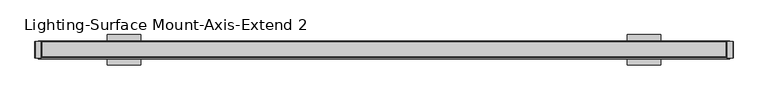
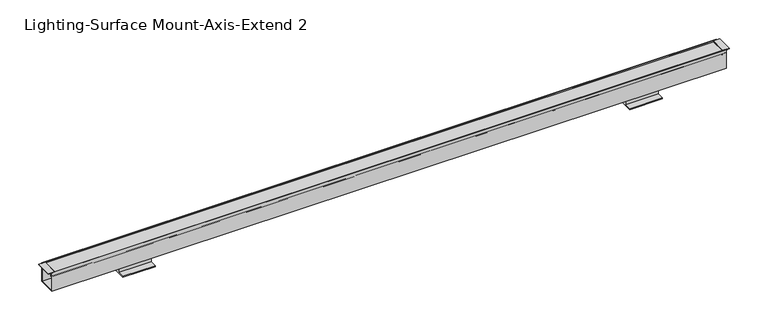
"""IFC4 building model written with IfcOpenShell, lengths in millimetres: light fixture geometry, Lighting-Surface Mount-Axis-Extend 2 : EX2S-900-80-35-SO-4."""

from ifc_helpers import new_model, si_unit, point, frame, frame_2d, origin, place, context, project, spatial, polyline, circle_curve, trimmed, segment, composite_curve, outline, extrude, source, transform, mapped, element, save


def lighting_surface_mount_axis_extend_2_fe795b97(model_context):
    return source(origin(), model_context, "Body", "SweptSolid", [
        extrude(outline(polyline([(3.5941, 19.05), (60.4139, 19.05), (60.4139, 3.9878), (85.8139335, 3.9878), (85.8139335, 0.0), (-21.8059335, 0.0), (-21.8059335, 3.9878), (3.5941, 3.9878), (3.5941, 19.05)])), frame((-982.90634, 0.0, 0.0), z_axis=(1.0, 0.0, 0.0), x_axis=(0.0, 1.0, 0.0)), (0.0, 0.0, 1.0), 118.69928),
        extrude(outline(polyline([(3.5941, 19.05), (60.4139, 19.05), (60.4139, 3.9878), (85.8139335, 3.9878), (85.8139335, 0.0), (-21.8059335, 0.0), (-21.8059335, 3.9878), (3.5941, 3.9878), (3.5941, 19.05)])), frame((864.20706, 0.0, 0.0), z_axis=(1.0, 0.0, 0.0), x_axis=(0.0, 1.0, 0.0)), (0.0, 0.0, 1.0), 118.69928),
        extrude(outline(polyline([(89.3857861, 1216.2536), (87.91575, 1216.2536), (87.91575, 1217.04735), (88.7095, 1217.04735), (88.7095, 1223.518), (85.9032981, 1223.518), (85.9032981, 1233.1954), (88.7095, 1233.1954), (88.7095, 1239.66605), (87.91575, 1239.66605), (87.91575, 1240.4598), (89.3857861, 1240.4598), (90.4875, 1239.5352563), (90.4875, 1217.1781437), (89.3857861, 1216.2536)])), frame((0.0, 2.032, 0.0), z_axis=(0.0, 1.0, 0.0), x_axis=(0.0, 0.0, 1.0)), (0.0, 0.0, 1.0), 59.944),
        extrude(outline(polyline([(89.3857861, -1240.4598), (87.91575, -1240.4598), (87.91575, -1239.66605), (88.7095, -1239.66605), (88.7095, -1233.1954), (85.9032981, -1233.1954), (85.9032981, -1223.518), (88.7095, -1223.518), (88.7095, -1217.04735), (87.91575, -1217.04735), (87.91575, -1216.2536), (89.3857861, -1216.2536), (90.4875, -1217.1781437), (90.4875, -1239.5352563), (89.3857861, -1240.4598)])), frame((0.0, 2.032, 0.0), z_axis=(0.0, 1.0, 0.0), x_axis=(0.0, 0.0, 1.0)), (0.0, 0.0, 1.0), 59.944),
        extrude(outline(composite_curve([segment(polyline([(56.1767262, 85.5979991), (7.8312738, 85.5979991), (7.4925819, 79.1353737)]), True, "CONTINUOUS"), segment(trimmed(circle_curve(frame_2d((4.7498, 76.1365)), 4.064), [point((7.4925819, 79.1353737))], [point((6.6221186, 72.5294903))], False, "CARTESIAN"), True, "CONTINUOUS"), segment(trimmed(circle_curve(frame_2d((9.854656, 73.3183457)), 3.3274001), [point((6.6221186, 72.5294903))], [point((7.4374044, 71.0317575))], True, "CARTESIAN"), True, "CONTINUOUS"), segment(trimmed(circle_curve(frame_2d((14.8736823, 78.0660708)), 10.2362001), [point((7.4374044, 71.0317575))], [point((8.7920934, 69.8323555))], True, "CARTESIAN"), True, "CONTINUOUS"), segment(trimmed(circle_curve(frame_2d((8.3016427, 69.1683462)), 0.8255), [point((8.7920934, 69.8323555))], [point((7.811192, 68.5043369))], False, "CARTESIAN"), True, "CONTINUOUS"), segment(trimmed(circle_curve(frame_2d((14.8736831, 78.0660717)), 11.8872013), [point((7.811192, 68.5043369))], [point((6.2380048, 69.8971908))], False, "CARTESIAN"), True, "CONTINUOUS"), segment(trimmed(circle_curve(frame_2d((9.854656, 73.3183457)), 4.9784001), [point((6.2380048, 69.8971908))], [point((4.8931193, 73.72776))], False, "CARTESIAN"), True, "CONTINUOUS"), segment(trimmed(circle_curve(frame_2d((4.7498, 76.1365)), 2.413), [point((4.8931193, 73.72776))], [point((6.5286059, 77.7669658))], True, "CARTESIAN"), True, "CONTINUOUS"), segment(trimmed(circle_curve(frame_2d((8.4010331, 79.4832456)), 2.54), [point((6.5286059, 77.7669658))], [point((5.8645141, 79.6161789))], False, "CARTESIAN"), True, "CONTINUOUS"), segment(polyline([(5.8645141, 79.6161789), (6.178008, 85.5979991), (3.175, 85.5979991), (3.175, 87.503), (60.833, 87.503), (60.833, 85.5979991), (57.829992, 85.5979991), (58.1434859, 79.6161789)]), True, "CONTINUOUS"), segment(trimmed(circle_curve(frame_2d((55.6069669, 79.4832456)), 2.54), [point((58.1434859, 79.6161789))], [point((57.4793941, 77.7669658))], False, "CARTESIAN"), True, "CONTINUOUS"), segment(trimmed(circle_curve(frame_2d((59.2582, 76.1365)), 2.413), [point((57.4793941, 77.7669658))], [point((59.1148807, 73.72776))], True, "CARTESIAN"), True, "CONTINUOUS"), segment(trimmed(circle_curve(frame_2d((54.153344, 73.3183457)), 4.9784001), [point((59.1148807, 73.72776))], [point((57.7699952, 69.8971908))], False, "CARTESIAN"), True, "CONTINUOUS"), segment(trimmed(circle_curve(frame_2d((49.1343169, 78.0660717)), 11.8872013), [point((57.7699952, 69.8971908))], [point((56.196808, 68.5043369))], False, "CARTESIAN"), True, "CONTINUOUS"), segment(trimmed(circle_curve(frame_2d((55.7063573, 69.1683462)), 0.8255), [point((56.196808, 68.5043369))], [point((55.2159066, 69.8323555))], False, "CARTESIAN"), True, "CONTINUOUS"), segment(trimmed(circle_curve(frame_2d((49.1343177, 78.0660708)), 10.2362001), [point((55.2159066, 69.8323555))], [point((56.5705956, 71.0317575))], True, "CARTESIAN"), True, "CONTINUOUS"), segment(trimmed(circle_curve(frame_2d((54.153344, 73.3183457)), 3.3274001), [point((56.5705956, 71.0317575))], [point((57.3858814, 72.5294903))], True, "CARTESIAN"), True, "CONTINUOUS"), segment(trimmed(circle_curve(frame_2d((59.2582, 76.1365)), 4.064), [point((57.3858814, 72.5294903))], [point((56.5154181, 79.1353737))], False, "CARTESIAN"), True, "CONTINUOUS"), segment(polyline([(56.5154181, 79.1353737), (56.1767262, 85.5979991)]), True, "CONTINUOUS")], self_intersect=False)), frame((-1219.2, 0.0, 0.0), z_axis=(1.0, 0.0, 0.0), x_axis=(0.0, 1.0, 0.0)), (0.0, 0.0, 1.0), 2438.4),
        extrude(outline(composite_curve([segment(polyline([(61.976, 75.5777), (60.1365797, 75.5777)]), True, "CONTINUOUS"), segment(trimmed(circle_curve(frame_2d((58.6302297, 75.5777)), 1.5063501), [point((60.1365797, 75.5777))], [point((57.8770546, 74.2731626))], False, "CARTESIAN"), True, "CONTINUOUS"), segment(trimmed(circle_curve(frame_2d((59.0682121, 76.3363079)), 2.382315), [point((57.8770546, 74.2731626))], [point((56.6936516, 76.5283682))], False, "CARTESIAN"), True, "CONTINUOUS"), segment(polyline([(56.6936516, 76.5283682), (60.071, 79.3623), (60.071, 77.6097), (61.976, 77.6097), (61.976, 84.1375), (60.071, 84.1375), (60.071, 82.6135), (58.42, 82.7000252), (58.42, 85.4075), (61.976, 85.4075), (61.976, 90.4875), (64.008, 90.4875), (64.008, 19.05), (0.0, 19.05), (0.0, 90.4875), (2.032, 90.4875), (2.032, 85.4075), (5.588, 85.4075), (5.588, 82.7000252), (3.937, 82.6135), (3.937, 84.1375), (2.032, 84.1375), (2.032, 77.6097), (3.937, 77.6097), (3.937, 79.3623), (7.3143484, 76.5283682)]), True, "CONTINUOUS"), segment(trimmed(circle_curve(frame_2d((4.9397879, 76.3363079)), 2.382315), [point((7.3143484, 76.5283682))], [point((6.1309454, 74.2731626))], False, "CARTESIAN"), True, "CONTINUOUS"), segment(trimmed(circle_curve(frame_2d((5.3777703, 75.5777)), 1.5063501), [point((6.1309454, 74.2731626))], [point((3.8714203, 75.5777))], False, "CARTESIAN"), True, "CONTINUOUS"), segment(polyline([(3.8714203, 75.5777), (2.032, 75.5777), (2.032, 21.082), (61.976, 21.082), (61.976, 75.5777)]), True, "CONTINUOUS")], self_intersect=False)), frame((-1228.3567, 0.0, 0.0), z_axis=(1.0, 0.0, 0.0), x_axis=(0.0, 1.0, 0.0)), (0.0, 0.0, 1.0), 2456.7134),
    ])


if __name__ == "__main__":
    model = new_model("IFC4")
    model_context = context("Model", 3, world=origin())
    ifc_project = project(units=[si_unit("LENGTHUNIT", "METRE", prefix="MILLI")], contexts=[model_context])
    site = spatial("IfcSite", under=ifc_project)
    building = spatial("IfcBuilding", under=site)
    placement = place(None, origin())
    lighting_surface_mount_axis_extend_2_shape = lighting_surface_mount_axis_extend_2_fe795b97(model_context)
    element("IfcLightFixture", 1, ObjectType="Lighting-Surface Mount-Axis-Extend 2 : EX2S-900-80-35-SO-4", at=placement, inside=building, context=model_context, shape_type="MappedRepresentation", body=[
        mapped(lighting_surface_mount_axis_extend_2_shape, transform((0.0, 0.0, 0.0), x_axis=(1.0, 0.0, 0.0), y_axis=(0.0, 1.0, 0.0), z_axis=(0.0, 0.0, 1.0))),
    ])
    save(model, "model.ifc")
